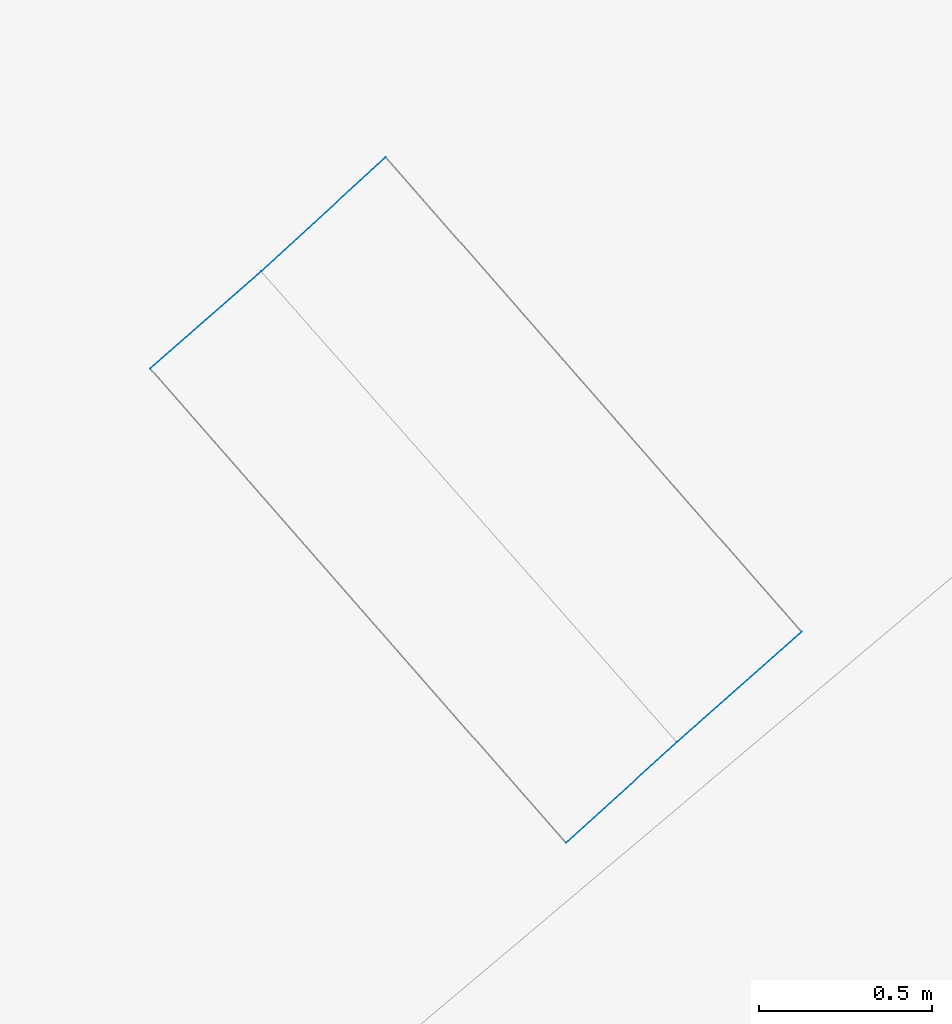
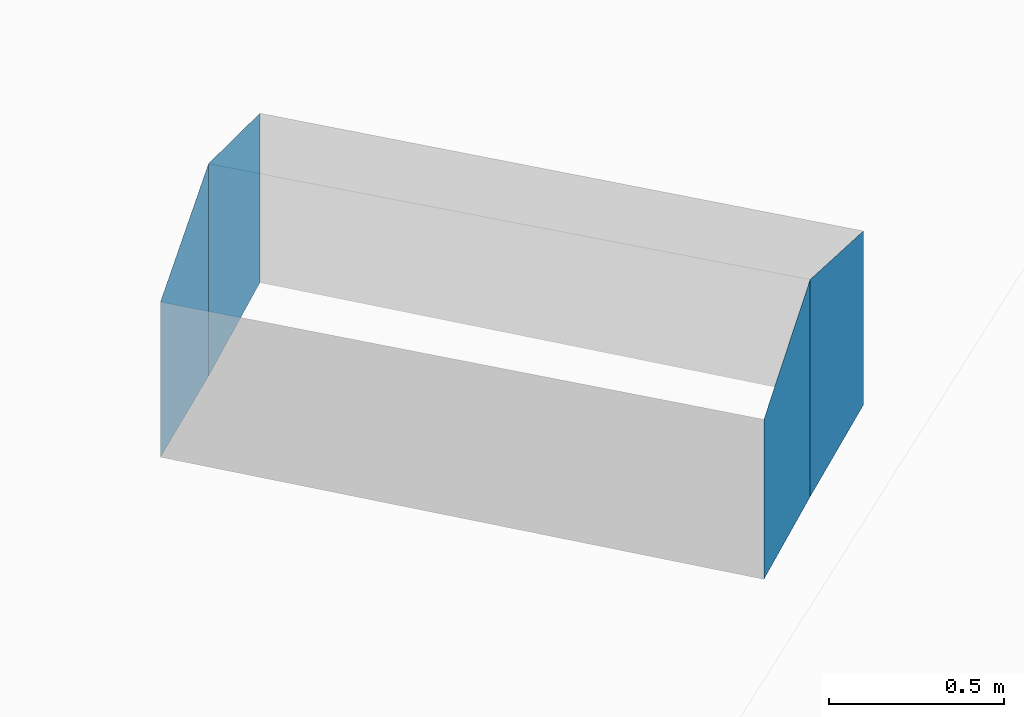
# Not in any storey, part 89 of 136: 4 walls.
"""IFC4 building model written with IfcOpenShell, lengths in metres."""

import ifcopenshell
import ifcopenshell.guid

model = None  # the IFC model being written
_history = None  # IfcOwnerHistory: only IFC2X3 demands one
_inside = {}  # id of a spatial element -> (the spatial element, [elements in it])
_under = {}  # id of a project, library or spatial element -> (it, [spatial elements below it])
_declared = {}  # id of a project -> (the project, [libraries it declares])
_typed = {}  # id of a type object -> (the type object, [elements of that type])
_made_of = {}  # id of a material, layer set ... -> (it, [elements and type objects made of it])


def new_model(schema):
    """Start an empty IFC model of exactly this schema.

    Asked for "IFC4X3", IfcOpenShell would pick the latest addendum, in which some entities
    have other attributes; the version numbers below select the first issue.
    IFC2X3 requires an IfcOwnerHistory on every rooted entity: one is made here for all.
    """
    global model, _history
    if schema == "IFC4X3":
        model = ifcopenshell.file(schema_version=(4, 3, 0, 0))
    else:
        model = ifcopenshell.file(schema=schema)
    _inside.clear()
    _under.clear()
    _declared.clear()
    _typed.clear()
    _made_of.clear()
    _history = None
    if model.schema == "IFC2X3":
        org = make("IfcOrganization", Name="unknown")
        user = make(
            "IfcPersonAndOrganization",
            ThePerson=make("IfcPerson", FamilyName="unknown"),
            TheOrganization=org,
        )
        app = make(
            "IfcApplication",
            ApplicationDeveloper=org,
            Version="unknown",
            ApplicationFullName="unknown",
            ApplicationIdentifier="unknown",
        )
        _history = make(
            "IfcOwnerHistory",
            OwningUser=user,
            OwningApplication=app,
            ChangeAction="ADDED",
            CreationDate=0,
        )
    return model


def make(cls, **values):
    """One entity of the class cls with the attributes given. An attribute that is None is left unset."""
    return model.create_entity(
        cls, **{name: value for name, value in values.items() if value is not None}
    )


def entity(cls, *values):
    """Any entity or typed value of the class cls, its attributes in the order of the schema. None: left unset."""
    e = model.create_entity(cls)
    for i, value in enumerate(values):
        if value is not None:
            e[i] = value
    return e


def rooted(cls, **values):
    """An entity with a GlobalId (a new one), such as an element, a storey or a relation."""
    return make(cls, GlobalId=ifcopenshell.guid.new(), OwnerHistory=_history, **values)


def si_unit(unit_type, name, prefix=None):
    """IfcSIUnit, for example si_unit("LENGTHUNIT", "METRE", prefix="MILLI")."""
    return make("IfcSIUnit", UnitType=unit_type, Prefix=prefix, Name=name)


def converted_unit(unit_type, name, factor, base, dimensions=None, offset=None):
    """IfcConversionBasedUnit, such as the inch: factor (a typed value) times the base unit."""
    return make(
        "IfcConversionBasedUnit"
        if offset is None
        else "IfcConversionBasedUnitWithOffset",
        ConversionOffset=offset,
        Dimensions=None
        if dimensions is None
        else entity("IfcDimensionalExponents", *dimensions),
        UnitType=unit_type,
        Name=name,
        ConversionFactor=make(
            "IfcMeasureWithUnit", ValueComponent=factor, UnitComponent=base
        ),
    )


def assignment(units):
    """IfcUnitAssignment: the units of a project."""
    return None if units is None else make("IfcUnitAssignment", Units=units)


def point(xyz):
    """IfcCartesianPoint."""
    return None if xyz is None else make("IfcCartesianPoint", Coordinates=xyz)


def direction(xyz):
    """IfcDirection."""
    return None if xyz is None else make("IfcDirection", DirectionRatios=xyz)


def frame(location, z_axis=None, x_axis=None):
    """IfcAxis2Placement3D, a coordinate frame: its origin and axes. An axis left out is left unset."""
    return make(
        "IfcAxis2Placement3D",
        Location=point(location),
        Axis=direction(z_axis),
        RefDirection=direction(x_axis),
    )


def origin():
    """The frame at (0, 0, 0) with its axes left unset."""
    return frame((0.0, 0.0, 0.0))


def place(relative_to, where):
    """IfcLocalPlacement: puts the frame where relative to a parent placement (None: the world)."""
    return make(
        "IfcLocalPlacement", PlacementRelTo=relative_to, RelativePlacement=where
    )


def context(
    kind, dimensions, precision=None, world=None, true_north=None, identifier=None
):
    """IfcGeometricRepresentationContext, for example the 3D "Model" context."""
    return make(
        "IfcGeometricRepresentationContext",
        ContextIdentifier=identifier,
        ContextType=kind,
        CoordinateSpaceDimension=dimensions,
        Precision=precision,
        WorldCoordinateSystem=world,
        TrueNorth=true_north,
    )


def subcontext(parent, identifier, kind, view, scale=None):
    """IfcGeometricRepresentationSubContext, for example "Body" below "Model"."""
    return make(
        "IfcGeometricRepresentationSubContext",
        ContextIdentifier=identifier,
        ContextType=kind,
        ParentContext=parent,
        TargetScale=scale,
        TargetView=view,
    )


def project(units=None, contexts=None):
    """IfcProject with its units and contexts."""
    return rooted(
        "IfcProject",
        Name="project",
        RepresentationContexts=contexts,
        UnitsInContext=assignment(units),
    )


def spatial(cls, under=None, at=None, **own):
    """A site, building, storey or space (cls), placed at a placement, below another one or the project."""
    s = rooted(cls, ObjectPlacement=at, **own)
    if under is not None:
        _under.setdefault(under.id(), (under, []))[1].append(s)
    return s


def faces_of(points, faces, orient=None, outer=None):
    """IfcFace entities. A face is a list of loops; a loop is a list of indices into points, from 0.

    orient and outer hold one flag for each loop. By default every Orientation is true, the
    first loop of a face is its IfcFaceOuterBound and the others are IfcFaceBound.
    """
    made = []
    for i, loops in enumerate(faces):
        bounds = []
        for j, loop in enumerate(loops):
            is_outer = j == 0 if outer is None else outer[i][j]
            bounds.append(
                make(
                    "IfcFaceOuterBound" if is_outer else "IfcFaceBound",
                    Bound=make("IfcPolyLoop", Polygon=[points[k] for k in loop]),
                    Orientation=True if orient is None else orient[i][j],
                )
            )
        made.append(make("IfcFace", Bounds=bounds))
    return made


def face_set(faces, orient=None, outer=None):
    """The faces of one IfcConnectedFaceSet. surface_model builds it on its shared points."""
    return ("IfcConnectedFaceSet", faces, orient, outer)


def surface_model(cls, points, shells):
    """IfcFaceBasedSurfaceModel or IfcShellBasedSurfaceModel (cls): surfaces that need not close."""
    shared = [point(p) for p in points]
    made = [make(c, CfsFaces=faces_of(shared, fs, o, b)) for c, fs, o, b in shells]
    if cls == "IfcFaceBasedSurfaceModel":
        return make(cls, FbsmFaces=made)
    return make(cls, SbsmBoundary=made)


def shape(context_of_items, identifier, shape_type, items):
    """IfcShapeRepresentation: the items that make up one representation, for example the "Body"."""
    return make(
        "IfcShapeRepresentation",
        ContextOfItems=context_of_items,
        RepresentationIdentifier=identifier,
        RepresentationType=shape_type,
        Items=items,
    )


def made_of(thing, what):
    """Note that an element or type object is made of a material, layer set ...; save() writes the relation."""
    if what is not None:
        _made_of.setdefault(what.id(), (what, []))[1].append(thing)
    return thing


def element(
    cls,
    number,
    at=None,
    inside=None,
    cuts=None,
    type_object=None,
    material=None,
    context=None,
    identifier="Body",
    shape_type=None,
    held_by="IfcProductDefinitionShape",
    body=None,
    shapes=None,
    **own,
):
    """One element of the class cls, such as IfcWall. Its Tag is "e" and its number.

    at: its placement. inside: the storey or other place that contains it. cuts: it is an
    opening in that element (IfcRelVoidsElement). A single representation is given by context,
    identifier, shape_type and body (its items); several are given by shapes. held_by: the class
    of the entity that holds the representations. save() writes the other relations.
    """
    e = rooted(cls, Tag="e%d" % number, ObjectPlacement=at, **own)
    if body is not None:
        shapes = [shape(context, identifier, shape_type, body)]
    if shapes is not None:
        e.Representation = make(held_by, Representations=shapes)
    if inside is not None:
        _inside.setdefault(inside.id(), (inside, []))[1].append(e)
    if cuts is not None:
        rooted(
            "IfcRelVoidsElement", RelatingBuildingElement=cuts, RelatedOpeningElement=e
        )
    if type_object is not None:
        _typed.setdefault(type_object.id(), (type_object, []))[1].append(e)
    return made_of(e, material)


def aggregate(whole, parts):
    """IfcRelAggregates: a whole, such as a stair, and the parts it consists of."""
    return rooted("IfcRelAggregates", RelatingObject=whole, RelatedObjects=parts)


def save(model, path):
    """Write the relations noted so far, then the file.

    IfcRelAggregates (storeys below a building ...), IfcRelContainedInSpatialStructure (elements
    in a storey), IfcRelDefinesByType, IfcRelAssociatesMaterial and IfcRelDeclares: one each for
    every whole, place, type object, material and project.
    """
    for whole, parts in _under.values():
        aggregate(whole, parts)
    for where, things in _inside.values():
        rooted(
            "IfcRelContainedInSpatialStructure",
            RelatedElements=things,
            RelatingStructure=where,
        )
    for kind, things in _typed.values():
        rooted("IfcRelDefinesByType", RelatedObjects=things, RelatingType=kind)
    for what, things in _made_of.values():
        rooted("IfcRelAssociatesMaterial", RelatedObjects=things, RelatingMaterial=what)
    for by, libraries in _declared.values():
        rooted("IfcRelDeclares", RelatingContext=by, RelatedDefinitions=libraries)
    model.write(path)


model = new_model("IFC4")

# Units and contexts
model_context = context("Model", 3, precision=1e-05, world=origin())
body_context = subcontext(model_context, "Body", "Model", "MODEL_VIEW")
ifc_project = project(units=[converted_unit("PLANEANGLEUNIT", "DEGREE", entity("IfcRatioMeasure", 0.0174532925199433), si_unit("PLANEANGLEUNIT", "RADIAN"), dimensions=[0, 0, 0, 0, 0, 0, 0]), si_unit("AREAUNIT", "SQUARE_METRE"), si_unit("LENGTHUNIT", "METRE")], contexts=[model_context])

# Site, building
site_placement = place(None, origin())
site = spatial("IfcSite", under=ifc_project, at=site_placement, Name="_site")
building_placement = place(site_placement, origin())
building = spatial("IfcBuilding", under=site, at=building_placement, Name="_building")

# Walls
wall_1_placement = place(building_placement, origin())
element("IfcWall", 1, at=wall_1_placement, inside=building, Name="Wall", PredefinedType="NOTDEFINED", context=body_context, shape_type="SurfaceModel", body=[
    surface_model("IfcFaceBasedSurfaceModel", [(36.12, 53.64, 54.74), (36.44, 53.92, 54.94), (36.44, 53.92, 54.199), (36.12, 53.64, 54.198)], [face_set([[[0, 1, 2, 3]]])]),
])
wall_2_placement = place(building_placement, origin())
element("IfcWall", 2, at=wall_2_placement, inside=building, Name="Wall", PredefinedType="NOTDEFINED", context=body_context, shape_type="SurfaceModel", body=[
    surface_model("IfcFaceBasedSurfaceModel", [(36.44, 53.92, 54.94), (36.8, 54.25, 54.79), (36.8, 54.25, 54.199), (36.44, 53.92, 54.199)], [face_set([[[0, 1, 2, 3]]])]),
])
wall_3_placement = place(building_placement, origin())
element("IfcWall", 3, at=wall_3_placement, inside=building, Name="Wall", PredefinedType="NOTDEFINED", context=body_context, shape_type="SurfaceModel", body=[
    surface_model("IfcFaceBasedSurfaceModel", [(38.0, 52.88, 54.79), (37.64, 52.561, 54.94), (37.64, 52.561, 54.182), (38.0, 52.88, 54.183)], [face_set([[[0, 1, 2, 3]]])]),
])
wall_4_placement = place(building_placement, origin())
element("IfcWall", 4, at=wall_4_placement, inside=building, Name="Wall", PredefinedType="NOTDEFINED", context=body_context, shape_type="SurfaceModel", body=[
    surface_model("IfcFaceBasedSurfaceModel", [(37.64, 52.561, 54.94), (37.32, 52.271, 54.74), (37.32, 52.271, 54.182), (37.64, 52.561, 54.182)], [face_set([[[0, 1, 2, 3]]])]),
])

save(model, "model.ifc")
